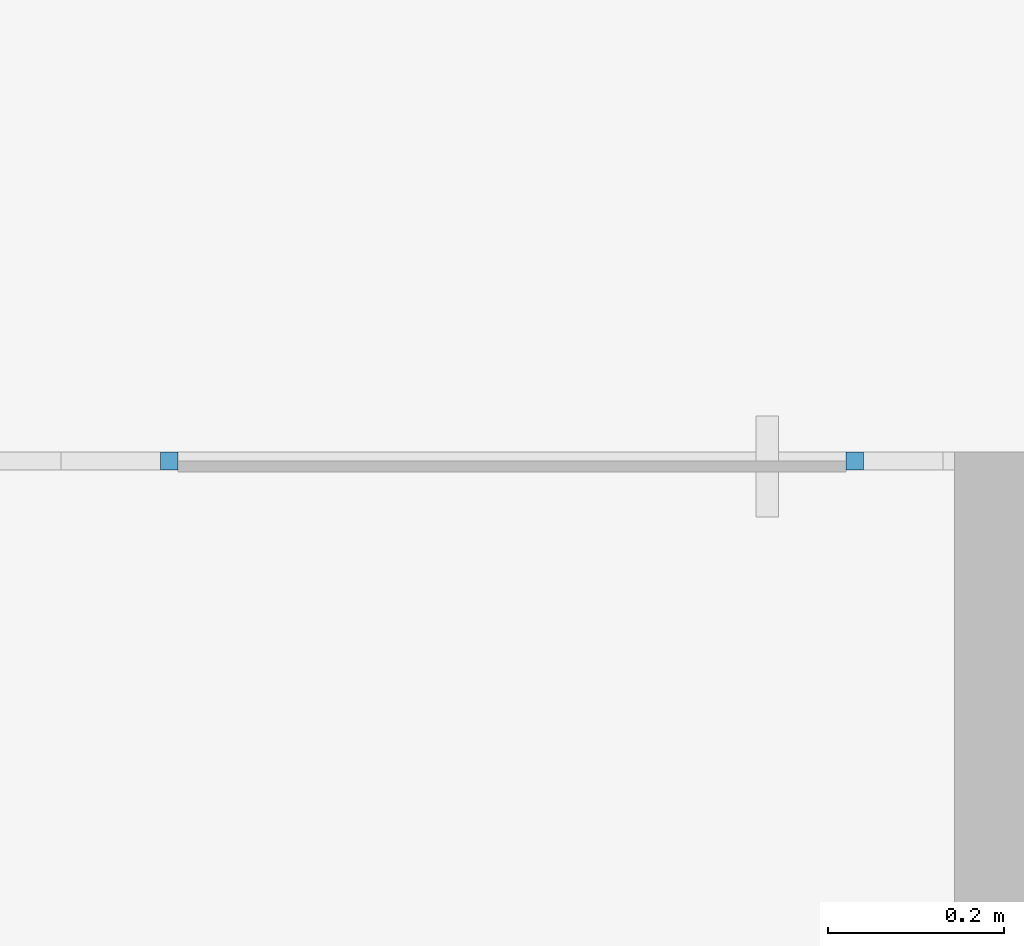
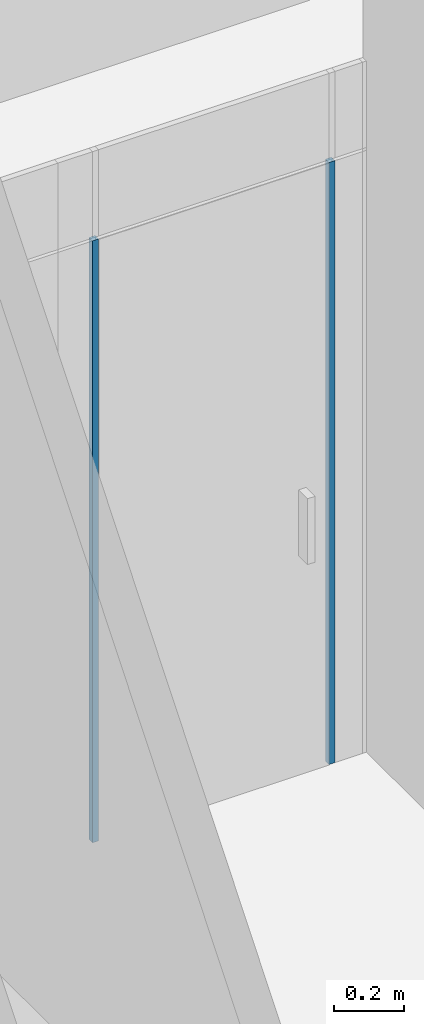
# One storey, part 3 of 66: 2 members, 1 element without a shape of its own.
"""IFC2X3 building model written with IfcOpenShell, lengths in millimetres."""

from ifc_helpers import new_model, entity, si_unit, converted_unit, derived_unit, direction, frame, origin, origin_2d_with_axis, place, context, subcontext, project, spatial, rectangle, extrude, source, transform, mapped, material, type_object, type_shapes, element, aggregate, save


model = new_model("IFC2X3")

# Units and contexts
model_context = context("Model", 3, precision=0.01, world=origin(), true_north=direction((6.12303176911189e-17, 1.0)))
body_context = subcontext(model_context, "Body", "Model", "MODEL_VIEW")
ifc_project = project(units=[si_unit("LENGTHUNIT", "METRE", prefix="MILLI"), si_unit("AREAUNIT", "SQUARE_METRE"), si_unit("VOLUMEUNIT", "CUBIC_METRE"), converted_unit("PLANEANGLEUNIT", "DEGREE", entity("IfcRatioMeasure", 0.0174532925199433), si_unit("PLANEANGLEUNIT", "RADIAN"), dimensions=[0, 0, 0, 0, 0, 0, 0]), si_unit("MASSUNIT", "GRAM", prefix="KILO"), derived_unit("MASSDENSITYUNIT", [(si_unit("MASSUNIT", "GRAM", prefix="KILO"), 1), (si_unit("LENGTHUNIT", "METRE"), -3)]), si_unit("TIMEUNIT", "SECOND"), si_unit("FREQUENCYUNIT", "HERTZ"), si_unit("THERMODYNAMICTEMPERATUREUNIT", "DEGREE_CELSIUS"), derived_unit("THERMALTRANSMITTANCEUNIT", [(si_unit("MASSUNIT", "GRAM", prefix="KILO"), 1), (si_unit("THERMODYNAMICTEMPERATUREUNIT", "KELVIN"), -1), (si_unit("TIMEUNIT", "SECOND"), -3)]), derived_unit("VOLUMETRICFLOWRATEUNIT", [(si_unit("LENGTHUNIT", "METRE"), 3), (si_unit("TIMEUNIT", "SECOND"), -1)]), si_unit("ELECTRICCURRENTUNIT", "AMPERE"), si_unit("ELECTRICVOLTAGEUNIT", "VOLT"), si_unit("POWERUNIT", "WATT"), si_unit("FORCEUNIT", "NEWTON", prefix="KILO"), si_unit("ILLUMINANCEUNIT", "LUX"), si_unit("LUMINOUSFLUXUNIT", "LUMEN"), si_unit("LUMINOUSINTENSITYUNIT", "CANDELA"), derived_unit("USERDEFINED", [(si_unit("MASSUNIT", "GRAM", prefix="KILO"), -1), (si_unit("LENGTHUNIT", "METRE"), -2), (si_unit("TIMEUNIT", "SECOND"), 3), (si_unit("LUMINOUSFLUXUNIT", "LUMEN"), 1)]), derived_unit("LINEARVELOCITYUNIT", [(si_unit("LENGTHUNIT", "METRE"), 1), (si_unit("TIMEUNIT", "SECOND"), -1)]), si_unit("PRESSUREUNIT", "PASCAL"), derived_unit("USERDEFINED", [(si_unit("LENGTHUNIT", "METRE"), -2), (si_unit("MASSUNIT", "GRAM", prefix="KILO"), 1), (si_unit("TIMEUNIT", "SECOND"), -2)])], contexts=[model_context])

# Site, building, storey
site_placement = place(None, frame((-151.875543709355, 2715.0, 0.0)))
site = spatial("IfcSite", under=ifc_project, at=site_placement, Name="Surface", CompositionType="ELEMENT")
building_placement = place(site_placement, origin())
building = spatial("IfcBuilding", under=site, at=building_placement, CompositionType="ELEMENT")
storey_placement = place(building_placement, frame((0.0, 0.0, 3350.0)))
storey = spatial("IfcBuildingStorey", under=building, at=storey_placement, Name="2 korrus", CompositionType="ELEMENT", Elevation=3350.00000000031)

# Curtain wall, members
curtain_wall_type = type_object("IfcCurtainWallType", Name="Curtain Wall:Klaassein KLS-10", PredefinedType="NOTDEFINED")
curtain_wall_placement = place(storey_placement, frame((0.0, 0.0, -3350.0)))
curtain_wall = element("IfcCurtainWall", 1, at=curtain_wall_placement, inside=storey, type_object=curtain_wall_type, Name="Curtain Wall:Klaassein KLS-10", ObjectType="Curtain Wall:Klaassein KLS-10")
ifc_material = material(Name="__Uks_hele tamm")
member_type = type_object("IfcMemberType", Name="20 x 20mm", PredefinedType="MEMBER")
shared_shape = source(origin(), body_context, "Body", "SweptSolid", [
    extrude(rectangle(XDim=20.0, YDim=20.0, at=origin_2d_with_axis()), frame((0.0, 0.0, -2090.0), z_axis=(0.0, 0.0, 1.0), x_axis=(0.0, -1.0, 0.0)), (0.0, 0.0, 1.0), 2090.0),
])
type_shapes(member_type, [shared_shape])
member_1_placement = place(storey_placement, frame((6852.81503480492, 8850.0, 0.0), z_axis=(0.0, 0.0, -1.0), x_axis=(-1.0, 0.0, 0.0)))
member_1 = element("IfcMember", 2, at=member_1_placement, type_object=member_type, material=ifc_material, Name="Rectangular Mullion:20 x 20mm", ObjectType="20 x 20mm", context=body_context, shape_type="MappedRepresentation", body=[
    mapped(shared_shape, transform((0.0, 0.0, 0.0), scale=1.0)),
])
member_2_placement = place(storey_placement, frame((6075.82447316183, 8850.0, 0.0), z_axis=(0.0, 0.0, -1.0), x_axis=(-1.0, 0.0, 0.0)))
member_2 = element("IfcMember", 3, at=member_2_placement, type_object=member_type, material=ifc_material, Name="Rectangular Mullion:20 x 20mm", ObjectType="20 x 20mm", context=body_context, shape_type="MappedRepresentation", body=[
    mapped(shared_shape, transform((0.0, 0.0, 0.0), scale=1.0)),
])
aggregate(curtain_wall, [member_1, member_2])

save(model, "model.ifc")
